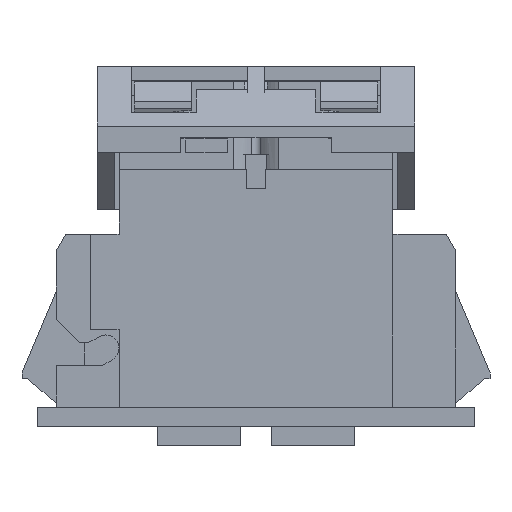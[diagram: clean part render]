
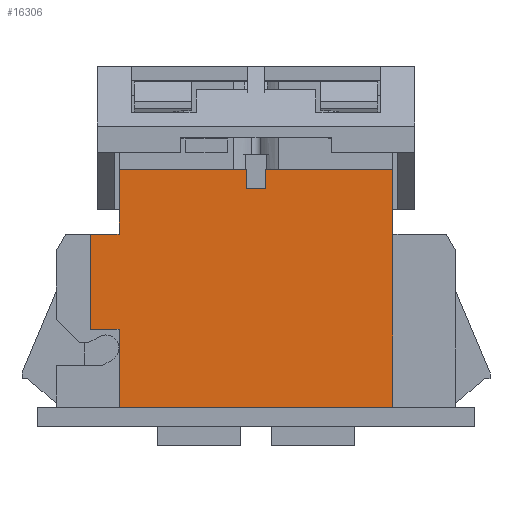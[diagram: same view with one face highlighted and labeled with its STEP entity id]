
A CAD part, front view. The second image highlights one B-rep face of the part: STEP entity #16306.
In plain terms, the highlighted planar face has unit normal (0, -1, 0).
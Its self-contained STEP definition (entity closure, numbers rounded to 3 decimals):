
#8176=CARTESIAN_POINT(' ',(7.2,-9.9,-3.5));
#8177=VERTEX_POINT(' ',#8176);
#8191=CARTESIAN_POINT(' ',(-7.2,-9.9,-3.5));
#8196=DIRECTION(' ',(1.,0.,0.));
#8201=VECTOR(' ',#8196,1.);
#8206=LINE('',#8191,#8201);
#8211=CARTESIAN_POINT(' ',(-7.2,-9.9,-3.5));
#8212=VERTEX_POINT(' ',#8211);
#8216=EDGE_CURVE(' ',#8212,#8177,#8206,.T.);
#13276=CARTESIAN_POINT(' ',(-0.5,-9.9,9.));
#13277=VERTEX_POINT(' ',#13276);
#13291=CARTESIAN_POINT(' ',(-0.5,-9.9,9.));
#13296=DIRECTION(' ',(0.,0.,-1.));
#13301=VECTOR(' ',#13296,1.);
#13306=LINE('',#13291,#13301);
#13311=CARTESIAN_POINT(' ',(-0.5,-9.9,8.));
#13312=VERTEX_POINT(' ',#13311);
#13316=EDGE_CURVE(' ',#13277,#13312,#13306,.T.);
#13416=CARTESIAN_POINT(' ',(0.5,-9.9,8.));
#13421=DIRECTION(' ',(-1.,0.,0.));
#13426=VECTOR(' ',#13421,1.);
#13431=LINE('',#13416,#13426);
#13436=CARTESIAN_POINT(' ',(0.5,-9.9,8.));
#13437=VERTEX_POINT(' ',#13436);
#13441=EDGE_CURVE(' ',#13437,#13312,#13431,.T.);
#13541=CARTESIAN_POINT(' ',(0.5,-9.9,9.));
#13542=VERTEX_POINT(' ',#13541);
#13576=CARTESIAN_POINT(' ',(0.5,-9.9,8.));
#13581=DIRECTION(' ',(0.,0.,1.));
#13586=VECTOR(' ',#13581,1.);
#13591=LINE('',#13576,#13586);
#13596=EDGE_CURVE(' ',#13437,#13542,#13591,.T.);
#14111=CARTESIAN_POINT(' ',(7.2,-9.9,9.));
#14112=VERTEX_POINT(' ',#14111);
#14171=CARTESIAN_POINT(' ',(7.2,-9.9,9.));
#14176=DIRECTION(' ',(-1.,0.,0.));
#14181=VECTOR(' ',#14176,1.);
#14186=LINE('',#14171,#14181);
#14191=EDGE_CURVE(' ',#14112,#13542,#14186,.T.);
#15721=CARTESIAN_POINT(' ',(7.2,-9.9,9.));
#15726=DIRECTION(' ',(0.,0.,-1.));
#15731=VECTOR(' ',#15726,1.);
#15736=LINE('',#15721,#15731);
#15741=EDGE_CURVE(' ',#14112,#8177,#15736,.T.);
#16036=DIRECTION(' ',(-0.,-1.,0.));
#16041=CARTESIAN_POINT(' ',(-8.7,-9.9,-3.5));
#16046=DIRECTION(' ',(1.,0.,0.));
#16051=AXIS2_PLACEMENT_3D(' ',#16041,#16036,#16046);
#16056=PLANE('',#16051);
#16061=CARTESIAN_POINT(' ',(-7.2,-9.9,9.));
#16066=DIRECTION(' ',(0.,0.,-1.));
#16071=VECTOR(' ',#16066,1.);
#16076=LINE('',#16061,#16071);
#16081=CARTESIAN_POINT(' ',(-7.2,-9.9,9.));
#16082=VERTEX_POINT(' ',#16081);
#16086=CARTESIAN_POINT(' ',(-7.2,-9.9,5.6));
#16087=VERTEX_POINT(' ',#16086);
#16091=EDGE_CURVE(' ',#16082,#16087,#16076,.T.);
#16096=ORIENTED_EDGE(' ',*,*,#16091,.T.);
#16101=CARTESIAN_POINT(' ',(-8.7,-9.9,5.6));
#16106=DIRECTION(' ',(1.,0.,0.));
#16111=VECTOR(' ',#16106,1.);
#16116=LINE('',#16101,#16111);
#16121=CARTESIAN_POINT(' ',(-8.7,-9.9,5.6));
#16122=VERTEX_POINT(' ',#16121);
#16126=EDGE_CURVE(' ',#16122,#16087,#16116,.T.);
#16131=ORIENTED_EDGE(' ',*,*,#16126,.F.);
#16136=CARTESIAN_POINT(' ',(-8.7,-9.9,0.6));
#16141=DIRECTION(' ',(0.,0.,1.));
#16146=VECTOR(' ',#16141,1.);
#16151=LINE('',#16136,#16146);
#16156=CARTESIAN_POINT(' ',(-8.7,-9.9,0.6));
#16157=VERTEX_POINT(' ',#16156);
#16161=EDGE_CURVE(' ',#16157,#16122,#16151,.T.);
#16166=ORIENTED_EDGE(' ',*,*,#16161,.F.);
#16171=CARTESIAN_POINT(' ',(-8.7,-9.9,0.6));
#16176=DIRECTION(' ',(1.,0.,0.));
#16181=VECTOR(' ',#16176,1.);
#16186=LINE('',#16171,#16181);
#16191=CARTESIAN_POINT(' ',(-7.2,-9.9,0.6));
#16192=VERTEX_POINT(' ',#16191);
#16196=EDGE_CURVE(' ',#16157,#16192,#16186,.T.);
#16201=ORIENTED_EDGE(' ',*,*,#16196,.T.);
#16206=CARTESIAN_POINT(' ',(-7.2,-9.9,0.6));
#16211=DIRECTION(' ',(0.,0.,-1.));
#16216=VECTOR(' ',#16211,1.);
#16221=LINE('',#16206,#16216);
#16226=EDGE_CURVE(' ',#16192,#8212,#16221,.T.);
#16231=ORIENTED_EDGE(' ',*,*,#16226,.T.);
#16236=ORIENTED_EDGE(' ',*,*,#8216,.T.);
#16241=ORIENTED_EDGE(' ',*,*,#15741,.F.);
#16246=ORIENTED_EDGE(' ',*,*,#14191,.T.);
#16251=ORIENTED_EDGE(' ',*,*,#13596,.F.);
#16256=ORIENTED_EDGE(' ',*,*,#13441,.T.);
#16261=ORIENTED_EDGE(' ',*,*,#13316,.F.);
#16266=CARTESIAN_POINT(' ',(-0.5,-9.9,9.));
#16271=DIRECTION(' ',(-1.,0.,0.));
#16276=VECTOR(' ',#16271,1.);
#16281=LINE('',#16266,#16276);
#16286=EDGE_CURVE(' ',#13277,#16082,#16281,.T.);
#16291=ORIENTED_EDGE(' ',*,*,#16286,.T.);
#16296=EDGE_LOOP(' ',(#16096,#16131,#16166,#16201,#16231,#16236,#16241,#16246,#16251,#16256,#16261,#16291));
#16301=FACE_OUTER_BOUND(' ',#16296,.T.);
#16306=ADVANCED_FACE('',(#16301),#16056,.T.);
